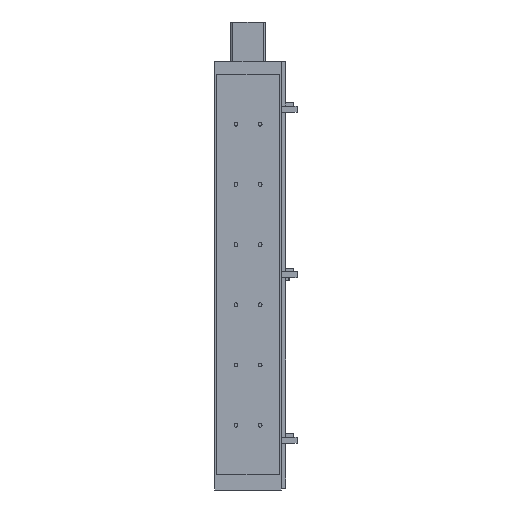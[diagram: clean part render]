
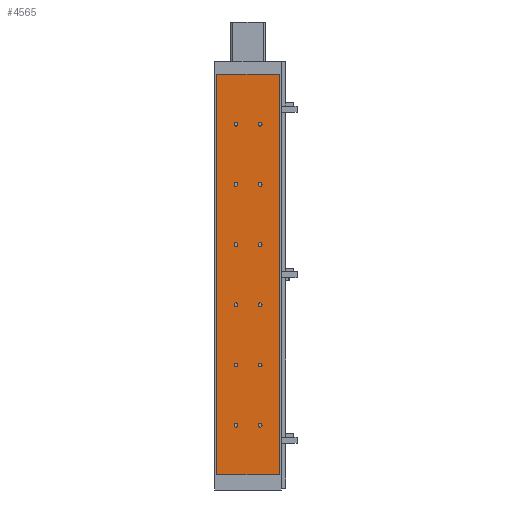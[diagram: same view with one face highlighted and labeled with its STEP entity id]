
A CAD part, front view. The second image highlights one B-rep face of the part: STEP entity #4565.
In plain terms, the highlighted planar face has unit normal (0, -1, 0).
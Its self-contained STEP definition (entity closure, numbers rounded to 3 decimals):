
#136=CARTESIAN_POINT('',(16.75,0.,607.5));
#137=VERTEX_POINT('',#136);
#138=CARTESIAN_POINT('',(20.,0.0,607.5));
#139=DIRECTION('',(0.0,1.0,0.0));
#140=DIRECTION('',(1.0,0.0,0.0));
#141=AXIS2_PLACEMENT_3D('',#138,#139,#140);
#142=CIRCLE('',#141,3.25);
#143=EDGE_CURVE('',#137,#137,#142,.T.);
#182=CARTESIAN_POINT('',(-23.25,0.,607.5));
#183=VERTEX_POINT('',#182);
#184=CARTESIAN_POINT('',(-20.,0.0,607.5));
#185=DIRECTION('',(0.0,1.0,0.0));
#186=DIRECTION('',(1.0,0.0,0.0));
#187=AXIS2_PLACEMENT_3D('',#184,#185,#186);
#188=CIRCLE('',#187,3.25);
#189=EDGE_CURVE('',#183,#183,#188,.T.);
#290=CARTESIAN_POINT('',(16.75,0.,507.5));
#291=VERTEX_POINT('',#290);
#292=CARTESIAN_POINT('',(20.,0.0,507.5));
#293=DIRECTION('',(0.0,1.0,0.0));
#294=DIRECTION('',(1.0,0.0,0.0));
#295=AXIS2_PLACEMENT_3D('',#292,#293,#294);
#296=CIRCLE('',#295,3.25);
#297=EDGE_CURVE('',#291,#291,#296,.T.);
#336=CARTESIAN_POINT('',(-23.25,0.,507.5));
#337=VERTEX_POINT('',#336);
#338=CARTESIAN_POINT('',(-20.,0.0,507.5));
#339=DIRECTION('',(0.0,1.0,0.0));
#340=DIRECTION('',(1.0,0.0,0.0));
#341=AXIS2_PLACEMENT_3D('',#338,#339,#340);
#342=CIRCLE('',#341,3.25);
#343=EDGE_CURVE('',#337,#337,#342,.T.);
#444=CARTESIAN_POINT('',(16.75,0.,207.5));
#445=VERTEX_POINT('',#444);
#446=CARTESIAN_POINT('',(20.,0.0,207.5));
#447=DIRECTION('',(0.0,1.0,0.0));
#448=DIRECTION('',(1.0,0.0,0.0));
#449=AXIS2_PLACEMENT_3D('',#446,#447,#448);
#450=CIRCLE('',#449,3.25);
#451=EDGE_CURVE('',#445,#445,#450,.T.);
#490=CARTESIAN_POINT('',(-23.25,0.,207.5));
#491=VERTEX_POINT('',#490);
#492=CARTESIAN_POINT('',(-20.,0.0,207.5));
#493=DIRECTION('',(0.0,1.0,0.0));
#494=DIRECTION('',(1.0,0.0,0.0));
#495=AXIS2_PLACEMENT_3D('',#492,#493,#494);
#496=CIRCLE('',#495,3.25);
#497=EDGE_CURVE('',#491,#491,#496,.T.);
#598=CARTESIAN_POINT('',(16.75,0.,107.5));
#599=VERTEX_POINT('',#598);
#600=CARTESIAN_POINT('',(20.,0.0,107.5));
#601=DIRECTION('',(0.0,1.0,0.0));
#602=DIRECTION('',(1.0,0.0,0.0));
#603=AXIS2_PLACEMENT_3D('',#600,#601,#602);
#604=CIRCLE('',#603,3.25);
#605=EDGE_CURVE('',#599,#599,#604,.T.);
#644=CARTESIAN_POINT('',(-23.25,0.,107.5));
#645=VERTEX_POINT('',#644);
#646=CARTESIAN_POINT('',(-20.,0.0,107.5));
#647=DIRECTION('',(0.0,1.0,0.0));
#648=DIRECTION('',(1.0,0.0,0.0));
#649=AXIS2_PLACEMENT_3D('',#646,#647,#648);
#650=CIRCLE('',#649,3.25);
#651=EDGE_CURVE('',#645,#645,#650,.T.);
#752=CARTESIAN_POINT('',(16.75,0.,407.5));
#753=VERTEX_POINT('',#752);
#754=CARTESIAN_POINT('',(20.,0.0,407.5));
#755=DIRECTION('',(0.0,1.0,0.0));
#756=DIRECTION('',(1.0,0.0,0.0));
#757=AXIS2_PLACEMENT_3D('',#754,#755,#756);
#758=CIRCLE('',#757,3.25);
#759=EDGE_CURVE('',#753,#753,#758,.T.);
#829=CARTESIAN_POINT('',(-23.25,0.,407.5));
#830=VERTEX_POINT('',#829);
#831=CARTESIAN_POINT('',(-20.,0.0,407.5));
#832=DIRECTION('',(0.0,1.0,0.0));
#833=DIRECTION('',(1.0,0.0,0.0));
#834=AXIS2_PLACEMENT_3D('',#831,#832,#833);
#835=CIRCLE('',#834,3.25);
#836=EDGE_CURVE('',#830,#830,#835,.T.);
#906=CARTESIAN_POINT('',(16.75,0.,307.5));
#907=VERTEX_POINT('',#906);
#908=CARTESIAN_POINT('',(20.,0.0,307.5));
#909=DIRECTION('',(0.0,1.0,0.0));
#910=DIRECTION('',(1.0,0.0,0.0));
#911=AXIS2_PLACEMENT_3D('',#908,#909,#910);
#912=CIRCLE('',#911,3.25);
#913=EDGE_CURVE('',#907,#907,#912,.T.);
#983=CARTESIAN_POINT('',(-23.25,0.,307.5));
#984=VERTEX_POINT('',#983);
#985=CARTESIAN_POINT('',(-20.,0.0,307.5));
#986=DIRECTION('',(0.0,1.0,0.0));
#987=DIRECTION('',(1.0,0.0,0.0));
#988=AXIS2_PLACEMENT_3D('',#985,#986,#987);
#989=CIRCLE('',#988,3.25);
#990=EDGE_CURVE('',#984,#984,#989,.T.);
#4450=CARTESIAN_POINT('',(52.,0.,25.));
#4451=VERTEX_POINT('',#4450);
#4458=CARTESIAN_POINT('',(-52.0,0.,25.));
#4459=VERTEX_POINT('',#4458);
#4460=CARTESIAN_POINT('',(-52.0,0.,25.));
#4461=DIRECTION('',(1.0,0.0,0.0));
#4462=VECTOR('',#4461,104.0);
#4463=LINE('',#4460,#4462);
#4464=EDGE_CURVE('',#4459,#4451,#4463,.T.);
#4481=CARTESIAN_POINT('',(-52.,0.,690.0));
#4482=VERTEX_POINT('',#4481);
#4483=CARTESIAN_POINT('',(-52.0,0.,25.));
#4484=DIRECTION('',(0.0,0.0,1.0));
#4485=VECTOR('',#4484,665.0);
#4486=LINE('',#4483,#4485);
#4487=EDGE_CURVE('',#4459,#4482,#4486,.T.);
#4506=CARTESIAN_POINT('',(52.0,0.,0.0));
#4507=DIRECTION('',(0.0,-1.0,0.0));
#4508=DIRECTION('',(0.0,0.0,-1.0));
#4509=AXIS2_PLACEMENT_3D('',#4506,#4507,#4508);
#4510=PLANE('',#4509);
#4511=ORIENTED_EDGE('',*,*,#4464,.T.);
#4512=CARTESIAN_POINT('',(52.,0.,690.0));
#4513=VERTEX_POINT('',#4512);
#4514=CARTESIAN_POINT('',(52.,0.,25.));
#4515=DIRECTION('',(0.0,0.0,1.0));
#4516=VECTOR('',#4515,665.0);
#4517=LINE('',#4514,#4516);
#4518=EDGE_CURVE('',#4451,#4513,#4517,.T.);
#4519=ORIENTED_EDGE('',*,*,#4518,.T.);
#4520=CARTESIAN_POINT('',(52.,0.,690.0));
#4521=DIRECTION('',(-1.0,0.0,0.0));
#4522=VECTOR('',#4521,104.);
#4523=LINE('',#4520,#4522);
#4524=EDGE_CURVE('',#4513,#4482,#4523,.T.);
#4525=ORIENTED_EDGE('',*,*,#4524,.T.);
#4526=ORIENTED_EDGE('',*,*,#4487,.F.);
#4527=EDGE_LOOP('',(#4511,#4519,#4525,#4526));
#4528=FACE_OUTER_BOUND('',#4527,.T.);
#4529=ORIENTED_EDGE('',*,*,#143,.T.);
#4530=EDGE_LOOP('',(#4529));
#4531=FACE_BOUND('',#4530,.T.);
#4532=ORIENTED_EDGE('',*,*,#189,.T.);
#4533=EDGE_LOOP('',(#4532));
#4534=FACE_BOUND('',#4533,.T.);
#4535=ORIENTED_EDGE('',*,*,#297,.T.);
#4536=EDGE_LOOP('',(#4535));
#4537=FACE_BOUND('',#4536,.T.);
#4538=ORIENTED_EDGE('',*,*,#343,.T.);
#4539=EDGE_LOOP('',(#4538));
#4540=FACE_BOUND('',#4539,.T.);
#4541=ORIENTED_EDGE('',*,*,#451,.T.);
#4542=EDGE_LOOP('',(#4541));
#4543=FACE_BOUND('',#4542,.T.);
#4544=ORIENTED_EDGE('',*,*,#497,.T.);
#4545=EDGE_LOOP('',(#4544));
#4546=FACE_BOUND('',#4545,.T.);
#4547=ORIENTED_EDGE('',*,*,#605,.T.);
#4548=EDGE_LOOP('',(#4547));
#4549=FACE_BOUND('',#4548,.T.);
#4550=ORIENTED_EDGE('',*,*,#651,.T.);
#4551=EDGE_LOOP('',(#4550));
#4552=FACE_BOUND('',#4551,.T.);
#4553=ORIENTED_EDGE('',*,*,#759,.T.);
#4554=EDGE_LOOP('',(#4553));
#4555=FACE_BOUND('',#4554,.T.);
#4556=ORIENTED_EDGE('',*,*,#836,.T.);
#4557=EDGE_LOOP('',(#4556));
#4558=FACE_BOUND('',#4557,.T.);
#4559=ORIENTED_EDGE('',*,*,#913,.T.);
#4560=EDGE_LOOP('',(#4559));
#4561=FACE_BOUND('',#4560,.T.);
#4562=ORIENTED_EDGE('',*,*,#990,.T.);
#4563=EDGE_LOOP('',(#4562));
#4564=FACE_BOUND('',#4563,.T.);
#4565=ADVANCED_FACE('',(#4528,#4531,#4534,#4537,#4540,#4543,#4546,#4549,#4552,#4555,#4558,#4561,#4564),#4510,.T.);
